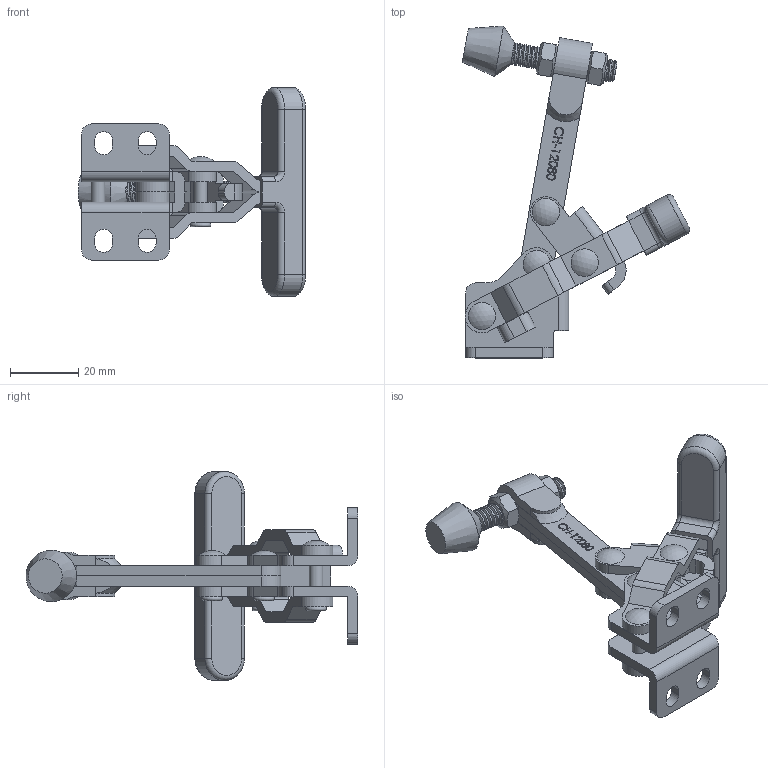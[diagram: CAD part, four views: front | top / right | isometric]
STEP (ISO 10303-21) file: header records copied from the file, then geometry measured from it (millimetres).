
FILE_DESCRIPTION(/* description */ ('STEP AP203'),/* implementation_level */ '2;1');
FILE_NAME(/* name */ 'D:\Vault_2016\Projekty\NASZ KATALOG\CLAMPTEK\STRONA\Vertical toggle clamp\CH-12080\CH-12080_OTWARTY.stp',/* time_stamp */ '2019-01-18T12:44:07+01:00',/* author */ ('CADENGINEERING4'),/* organization */ ('Î¢ÈíÖÐ¹ú'),/* preprocessor_version */ 'ST-DEVELOPER v17.2',/* originating_system */ 'Autodesk Inventor 2019',/* authorisation */ '');
FILE_SCHEMA (('AUTOMOTIVE_DESIGN { 1 0 10303 214 3 1 1 }'));
Length unit declared in the file: millimetre
Products named in the file (9): CH-12080_OTWARTY; CH-12050-01 FLANGED BASE; CH-12070-03 T-HANDLE; CH-12050-07; CH-12050-04 CONNECTING-PLATE; CH-12050-06; CH-FC-14134 SPINDLE SUPPLIED; CH-FC-14134 Nut; CH-12080-02 SOLID BAR_Ä¬ÈÏ_°´¼
Ó¹¤_
Assembly tree (11 placements, depth 2):
  CH-12080_OTWARTY
    CH-12050-01 FLANGED BASE
    CH-12070-03 T-HANDLE
    CH-12050-07  x2
    CH-12050-06  x2
    CH-12050-04 CONNECTING-PLATE
    CH-FC-14134 Nut  x2
    CH-FC-14134 SPINDLE SUPPLIED
    CH-12080-02 SOLID BAR_Ä¬ÈÏ_°´¼
Ó¹¤_
Bounding box: 66.33 x 96.92 x 61 mm (x, y, z)
Volume: 27606.8 mm3; surface area: 22044.5 mm2
Topology: 15 solids, 18 shells, 653 faces, 1787 edges, 1205 vertices
Faces by surface type: plane 282, bspline 190, cylinder 141, cone 20, torus 16, sphere 4
Full cylindrical faces by diameter (mm): 1.219 x1, 1.411 x1, 4 x20, 5.1 x6, 6.4 x26
Entity records: 38016 total; most frequent: CARTESIAN_POINT 23011, ORIENTED_EDGE 3392, DIRECTION 2415, EDGE_CURVE 1696, VERTEX_POINT 1141, LINE 933, VECTOR 933, AXIS2_PLACEMENT_3D 741
